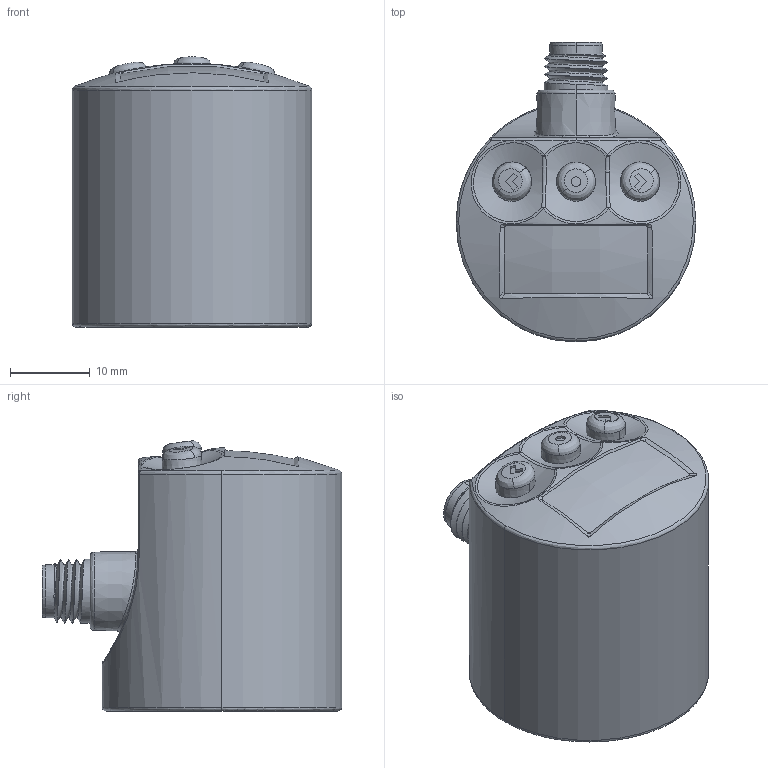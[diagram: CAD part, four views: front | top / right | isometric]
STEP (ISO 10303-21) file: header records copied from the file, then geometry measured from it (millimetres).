
FILE_DESCRIPTION (( 'STEP AP203' ), '1' );
FILE_NAME ('VA03412.STEP', '2016-11-29T09:31:01', ( '' ), ( '' ), 'SwSTEP 2.0', 'SolidWorks 2016', '' );
FILE_SCHEMA (( 'CONFIG_CONTROL_DESIGN' ));
Length unit declared in the file: millimetre
Products named in the file (1): VA03412
Bounding box: 30 x 37.5 x 33.83 mm (x, y, z)
Volume: 20644.6 mm3; surface area: 5281.9 mm2
Topology: 1 solids, 1 shells, 163 faces, 392 edges, 234 vertices
Faces by surface type: bspline 78, cylinder 41, plane 27, cone 17
Entity records: 9503 total; most frequent: CARTESIAN_POINT 6250, ORIENTED_EDGE 752, DIRECTION 529, EDGE_CURVE 376, VERTEX_POINT 234, AXIS2_PLACEMENT_3D 224, EDGE_LOOP 182, ADVANCED_FACE 163
